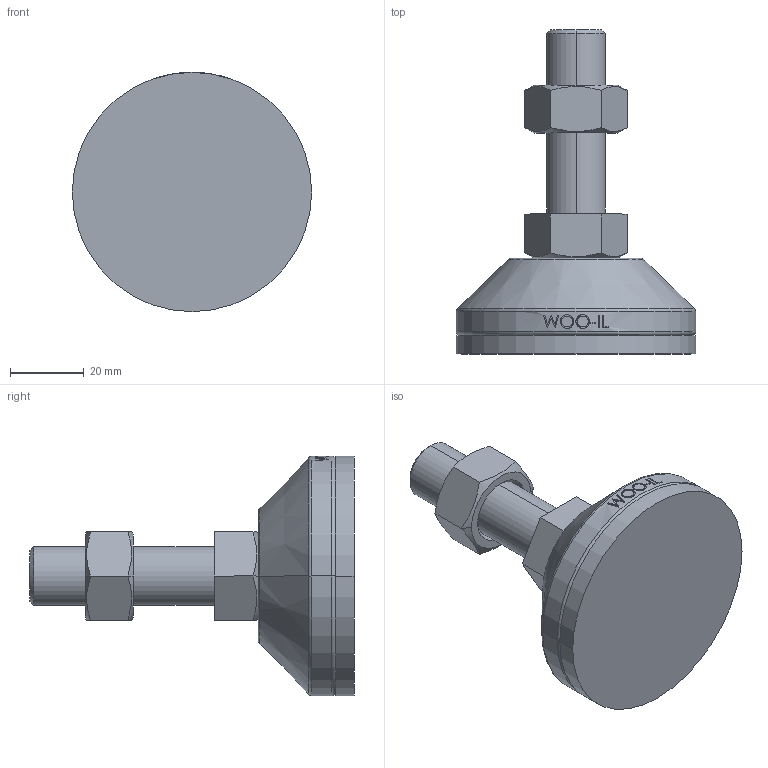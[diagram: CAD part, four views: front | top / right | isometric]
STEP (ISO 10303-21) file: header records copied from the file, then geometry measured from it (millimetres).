
FILE_DESCRIPTION (( 'STEP AP214' ), '1' );
FILE_NAME ('NHNR65-M16-50 (Æò).step', '2021-01-25T06:19:59', ( '' ), ( '' ), 'SwSTEP 2.0', 'SolidWorks 2019', '' );
FILE_SCHEMA (( 'AUTOMOTIVE_DESIGN' ));
Length unit declared in the file: millimetre
Products named in the file (2): NHNR65-M16-50 (ゎ)
Bounding box: 65 x 88 x 65 mm (x, y, z)
Volume: 88288.7 mm3; surface area: 23146.8 mm2
Topology: 4 solids, 4 shells, 100 faces, 229 edges, 146 vertices
Faces by surface type: plane 48, cylinder 16, bspline 16, cone 14, torus 6
Entity records: 4231 total; most frequent: CARTESIAN_POINT 2025, ORIENTED_EDGE 458, DIRECTION 401, EDGE_CURVE 229, AXIS2_PLACEMENT_3D 152, VERTEX_POINT 146, EDGE_LOOP 111, ADVANCED_FACE 100
